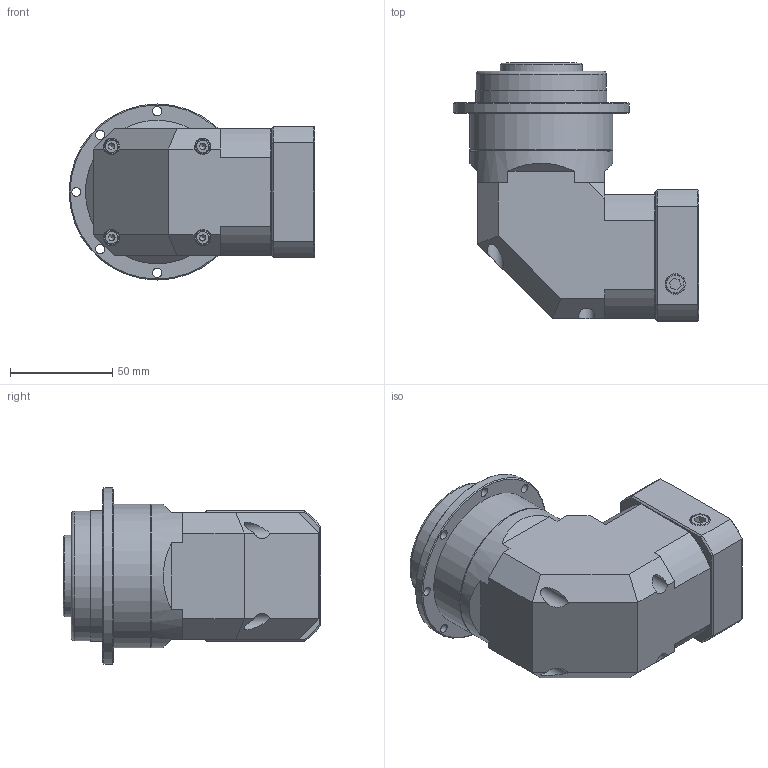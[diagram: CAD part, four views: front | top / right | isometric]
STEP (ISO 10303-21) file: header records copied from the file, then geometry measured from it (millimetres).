
FILE_DESCRIPTION((''),'2;1');
FILE_NAME('C:\Work\감속기 카다로그 도면\ATG Reducer(홈페이지)\KSDL\KSDL-64-1.stp','2014-07-04T11:29:49',('young'),(''),'Autodesk Inventor 2012','Autodesk Inventor 2012','');
FILE_SCHEMA(('AUTOMOTIVE_DESIGN { 1 0 10303 214 1 1 1 1 }'));
Length unit declared in the file: millimetre
Products named in the file (1): KSDL-64-1
Bounding box: 120 x 126 x 86 mm (x, y, z)
Volume: 301074.3 mm3; surface area: 120519.5 mm2
Topology: 20 solids, 20 shells, 560 faces, 1367 edges, 885 vertices
Faces by surface type: plane 277, cylinder 133, cone 124, torus 18, bspline 8
Full cylindrical faces by diameter (mm): 2 x1, 3 x11, 3.3 x10, 4 x4, 4.2 x8, 4.5 x12, 5 x6, 5.5 x4, 7 x4, 8 x4, 8.5 x5, 9 x4, 9.5 x2, 10 x1, 12.404 x1, 14.2 x1, 17 x1, 19.3 x1, 19.8 x1, 20 x2, 22 x1, 30 x1, 33 x1, 35 x3, 40 x3, 40.01 x1, 42 x1, 45 x1, 47.96 x1, 48.144 x1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
Entity records: 18830 total; most frequent: CARTESIAN_POINT 6802, DIRECTION 2504, ORIENTED_EDGE 2142, EDGE_CURVE 1071, AXIS2_PLACEMENT_3D 1034, EDGE_LOOP 877, VERTEX_POINT 812, FACE_OUTER_BOUND 560
